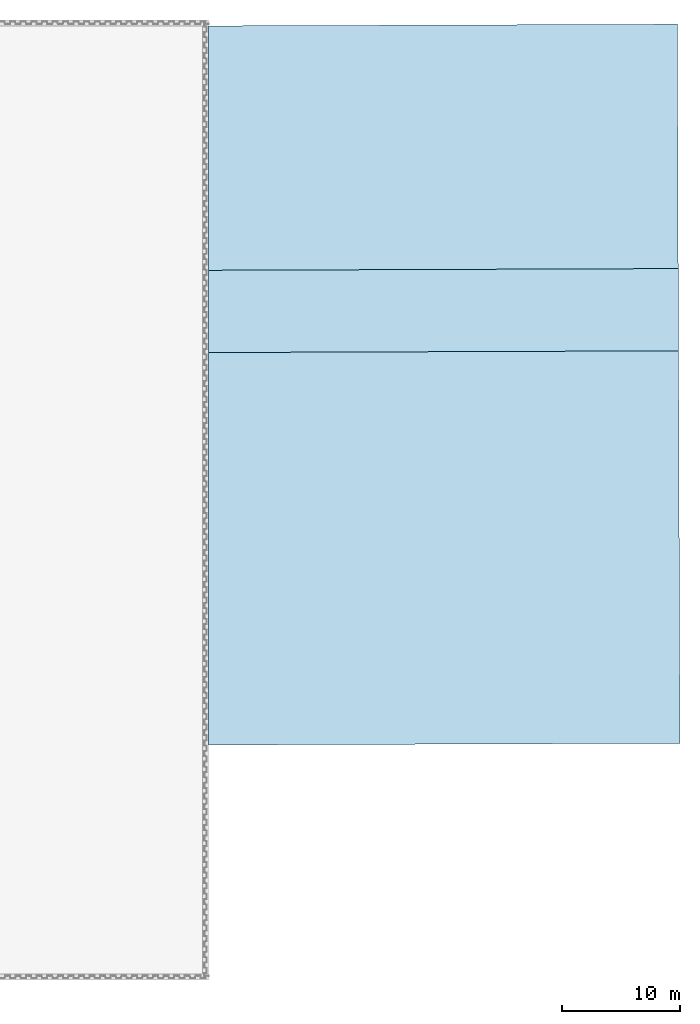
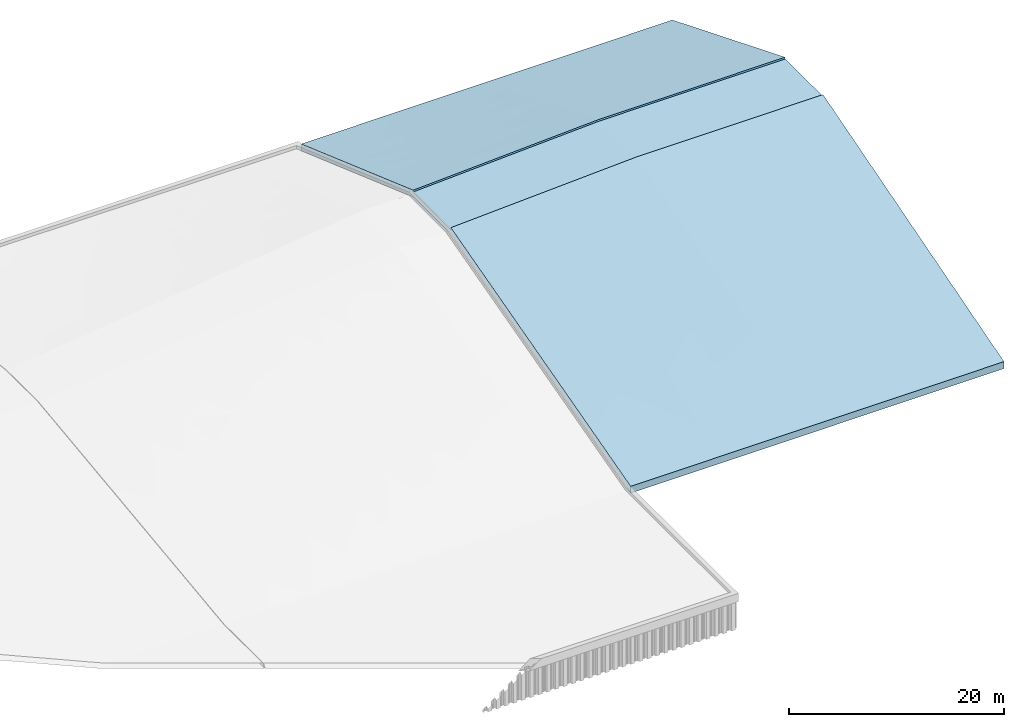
# One storey, part 3 of 32: 1 slab.
"""IFC2X3 building model written with IfcOpenShell, lengths in millimetres."""

from ifc_helpers import new_model, entity, si_unit, converted_unit, derived_unit, direction, frame, origin, place, context, subcontext, project, spatial, faceted_brep, type_object, element, save


model = new_model("IFC2X3")

# Units and contexts
model_context = context("Model", 3, precision=0.01, world=origin(), true_north=direction((6.12303176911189e-17, 1.0)))
body_context = subcontext(model_context, "Body", "Model", "MODEL_VIEW")
ifc_project = project(units=[si_unit("LENGTHUNIT", "METRE", prefix="MILLI"), si_unit("AREAUNIT", "SQUARE_METRE"), si_unit("VOLUMEUNIT", "CUBIC_METRE"), converted_unit("PLANEANGLEUNIT", "DEGREE", entity("IfcRatioMeasure", 0.0174532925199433), si_unit("PLANEANGLEUNIT", "RADIAN"), dimensions=[0, 0, 0, 0, 0, 0, 0]), si_unit("MASSUNIT", "GRAM", prefix="KILO"), derived_unit("MASSDENSITYUNIT", [(si_unit("MASSUNIT", "GRAM", prefix="KILO"), 1), (si_unit("LENGTHUNIT", "METRE"), -3)]), si_unit("TIMEUNIT", "SECOND"), si_unit("FREQUENCYUNIT", "HERTZ"), si_unit("THERMODYNAMICTEMPERATUREUNIT", "DEGREE_CELSIUS"), derived_unit("THERMALTRANSMITTANCEUNIT", [(si_unit("MASSUNIT", "GRAM", prefix="KILO"), 1), (si_unit("THERMODYNAMICTEMPERATUREUNIT", "KELVIN"), -1), (si_unit("TIMEUNIT", "SECOND"), -3)]), derived_unit("VOLUMETRICFLOWRATEUNIT", [(si_unit("LENGTHUNIT", "METRE"), 3), (si_unit("TIMEUNIT", "SECOND"), -1)]), si_unit("ELECTRICCURRENTUNIT", "AMPERE"), si_unit("ELECTRICVOLTAGEUNIT", "VOLT"), si_unit("POWERUNIT", "WATT"), si_unit("FORCEUNIT", "NEWTON", prefix="KILO"), si_unit("ILLUMINANCEUNIT", "LUX"), si_unit("LUMINOUSFLUXUNIT", "LUMEN"), si_unit("LUMINOUSINTENSITYUNIT", "CANDELA"), derived_unit("USERDEFINED", [(si_unit("MASSUNIT", "GRAM", prefix="KILO"), -1), (si_unit("LENGTHUNIT", "METRE"), -2), (si_unit("TIMEUNIT", "SECOND"), 3), (si_unit("LUMINOUSFLUXUNIT", "LUMEN"), 1)]), derived_unit("LINEARVELOCITYUNIT", [(si_unit("LENGTHUNIT", "METRE"), 1), (si_unit("TIMEUNIT", "SECOND"), -1)]), si_unit("PRESSUREUNIT", "PASCAL"), derived_unit("USERDEFINED", [(si_unit("LENGTHUNIT", "METRE"), -2), (si_unit("MASSUNIT", "GRAM", prefix="KILO"), 1), (si_unit("TIMEUNIT", "SECOND"), -2)])], contexts=[model_context])

# Site, building, storey
site_placement = place(None, origin())
site = spatial("IfcSite", under=ifc_project, at=site_placement, Name="Default", CompositionType="ELEMENT")
building_placement = place(site_placement, origin())
building = spatial("IfcBuilding", under=site, at=building_placement, CompositionType="ELEMENT")
storey_placement = place(building_placement, origin())
storey = spatial("IfcBuildingStorey", under=building, at=storey_placement, Name="矢板", CompositionType="ELEMENT", Elevation=0.0)

# Slab
slab_type = type_object("IfcSlabType", Name="大型連節ブロック", PredefinedType="FLOOR")
slab_placement = place(storey_placement, frame((148750.0, -32751.8168152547, 5716.69901167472)))
element("IfcSlab", 1, at=slab_placement, inside=storey, type_object=slab_type, Name="大型連節ブロック1:大型連節ブロック", ObjectType="大型連節ブロック1:大型連節ブロック", PredefinedType="FLOOR", context=body_context, shape_type="Brep", body=[
    faceted_brep([(19999.8673403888, 33474.6616285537, 10646.3009883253), (19999.8673403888, 33474.6616285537, 10846.3009883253), (20015.0736951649, 29299.6893212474, 9588.42598832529), (20030.280049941, 25124.7170139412, 8330.5509883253), (20045.4864047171, 20949.7447066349, 7072.67598832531), (20060.6927594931, 16774.7723993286, 5814.80098832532), (20079.5087209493, 11608.7665306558, 4258.33805785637), (20098.3246824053, 6442.76066198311, 2701.87512738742), (20121.5181785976, 74.8831701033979, 783.300988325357), (20121.5181785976, 74.8831701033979, 0.0), (20106.2615021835, 4263.67150683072, 1262.03762354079), (20091.0048257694, 8452.45984355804, 2524.07524708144), (20075.7481493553, 12641.2481802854, 3786.11287062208), (20060.4914729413, 16830.0365170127, 5048.15049416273), (20041.5949287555, 22018.1667323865, 6611.27925629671), (20022.6983845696, 27206.2969477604, 8174.40801843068), (19999.464767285, 33585.189863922, 10096.3009883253), (19974.9002052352, 40329.4995823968, 10096.3009883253), (19962.8542248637, 43636.7770467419, 8766.67187114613), (19950.808244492, 46944.054511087, 7437.04275396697), (19936.7529853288, 50802.9884004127, 5885.63047730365), (19922.6977261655, 54661.9222897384, 4334.21820064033), (19910.6517457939, 57969.1997540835, 3004.58908346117), (19898.6057654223, 61276.4772184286, 1674.95996628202), (19898.6057654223, 61276.4772184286, 2483.30098832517), (19910.5290159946, 58002.8957660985, 3799.38325339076), (19922.452266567, 54729.3143137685, 5115.46551845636), (19936.4887105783, 50875.5462080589, 6664.80098832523), (19950.5251545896, 47021.7781023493, 8214.13645819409), (19962.4484051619, 43748.1966500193, 9530.21872325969), (19974.3716557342, 40474.6151976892, 10846.3009883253), (19974.3716557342, 40474.6151976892, 10646.3009883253), (15285.2624229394, 40457.5362200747, 10614.1653281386), (10596.1531901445, 40440.4572424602, 10382.0296679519), (7947.11642147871, 40430.8087490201, 10250.8883640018), (5298.07659507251, 40421.160244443, 10119.7469086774), (0.0, 40401.8632464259, 9857.46414940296), (0.0, 40401.8632464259, 9657.46414940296), (15558.6487544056, 48932.6904622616, 7310.82464454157), (12874.7207410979, 47155.6467734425, 7912.62473563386), (16349.7733701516, 45955.1844977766, 8506.3431049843), (9818.78519796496, 52997.1155030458, 5598.74520436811), (13552.8720295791, 52779.2039174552, 5761.53714646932), (11320.3226242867, 55125.0700741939, 4818.4992346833), (8817.79195882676, 46446.95206618, 8037.03929390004), (12883.557602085, 44729.4400462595, 8847.18345444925), (10177.9192097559, 48913.0922010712, 7152.96308956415), (13864.0724691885, 57357.7271006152, 3993.81061332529), (9949.30288271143, 61240.2392225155, 2483.30098832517), (10244.0201730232, 57260.1488118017, 3992.22312168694), (6362.15453305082, 43669.1266947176, 8973.80027664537), (12936.572807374, 42344.8408035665, 9767.77196880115), (16197.7853527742, 43627.9178971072, 9415.0487171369), (15727.815317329, 55020.6032364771, 4929.93682580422), (6621.08488645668, 57256.9706852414, 3954.18774093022), (0.0, 58314.888308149, 3507.69600262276), (4201.3867963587, 55103.5426951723, 4713.208196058), (0.0, 49647.5495527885, 6580.88104551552), (4813.55765381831, 47245.1266039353, 7598.73840936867), (5972.63893096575, 49959.4701456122, 6638.16133718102), (0.0, 52536.662471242, 5556.48603121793), (6084.50974362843, 52763.5832009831, 5606.6496068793), (4974.65144135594, 61222.120224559, 2483.30098832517), (0.0, 45024.7063996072, 8219.17259745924), (0.0, 42713.2848230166, 9038.3183734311), (0.0, 47336.1279761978, 7400.02682148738), (7761.46329290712, 54812.4608154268, 4878.443158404), (14923.9543240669, 61258.3582204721, 2483.30098832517), (0.0, 55425.7753896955, 4532.09101692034), (0.0, 61204.0012266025, 2483.30098832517), (15264.8317174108, 61259.5997862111, 1677.88364527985), (10631.0576693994, 61242.7223539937, 1680.80732427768), (5315.53036598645, 61223.3617958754, 1684.16115538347), (1.05687831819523e-09, 61204.0012266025, 1687.51498842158), (14981.1751539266, 40315.3404138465, 9849.08596361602), (13914.7616340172, 44233.7132658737, 8276.88254343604), (6480.01861868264, 51095.6361501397, 5432.40623610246), (0.0, 48994.3921718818, 6016.4302968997), (0.0, 51901.5685931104, 4986.09343270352), (4191.48082771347, 58897.4984433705, 2531.46764522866), (16085.5059115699, 55437.9076022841, 3965.93594693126), (15540.7416743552, 52717.914871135, 5022.93874509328), (12257.8012267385, 54629.0065273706, 4220.37260854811), (9821.27355857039, 50068.0593321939, 5903.76345368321), (10166.7377670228, 52700.1102074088, 4916.43131660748), (7983.84890980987, 58334.9832272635, 2765.37271028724), (13440.0990553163, 59223.5624298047, 2463.69657295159), (16275.3175102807, 57710.6682550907, 3074.77346627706), (13584.7555054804, 48853.3993812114, 6476.5730664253), (13407.1502159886, 46533.5303775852, 7367.48382711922), (10243.5186578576, 42925.4444868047, 8620.96155731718), (10662.5442923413, 45121.9535082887, 7805.39660810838), (4993.72505130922, 40287.022076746, 9354.65591419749), (0.0, 43180.0393294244, 8077.10402529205), (6639.50065855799, 44292.9338849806, 7955.05273030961), (4905.69416897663, 53196.70477073, 4623.92083395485), (6443.9973875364, 46542.9385801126, 7115.10806837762), (0.0, 46087.2157506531, 7046.76716109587), (6104.59373249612, 48786.0346993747, 6275.3577373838), (9873.59654136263, 47276.7680342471, 6960.1958447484), (9987.45010261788, 40301.1812452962, 9601.87093890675), (8782.66239923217, 55473.2610084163, 3846.07239258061), (0.0, 54227.1767514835, 4161.44882163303), (4542.7017936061, 56481.8579597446, 3416.40159741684), (12838.383508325, 56925.1179555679, 3345.64088689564), (0.0, 56552.7849098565, 3336.80421056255), (0.0, 58878.3930682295, 2512.15959949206), (0.0, 40272.8629081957, 9107.44088948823), (16795.1637443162, 33571.8405007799, 9937.67086998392), (12817.2040918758, 33555.2680166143, 9740.74049237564), (6408.60204593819, 33528.5692903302, 9423.48025569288), (0.0, 33501.8705640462, 9106.22001901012), (15091.1386339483, 56.5611956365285, 1.53909009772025), (10060.759089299, 38.2392211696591, 3.07818019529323), (12563.3197097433, 3514.72252216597, 1008.20506597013), (9933.18570374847, 23089.6290681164, 6603.09679072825), (14648.9915792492, 19402.7941108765, 5675.99671365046), (9011.51636557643, 17092.167714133, 4863.35130897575), (9628.01913762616, 29391.6860142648, 8395.57232342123), (14464.9388176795, 24000.0520642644, 7018.59314116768), (9428.43592489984, 11039.6244882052, 3144.79116132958), (8214.94445752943, 5451.69696843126, 1541.17543359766), (3918.70871665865, 6981.52356391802, 1936.58848153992), (14824.3088845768, 28587.2714404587, 8378.20032773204), (15065.9154025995, 13349.7319141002, 3907.96481754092), (4443.36857157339, 11634.8336691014, 3235.62489647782), (4619.68523639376, 23425.4136910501, 6522.08781842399), (0.0, 26057.5542207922, 7083.2868753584), (4465.77362109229, 28721.5087232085, 7991.18526188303), (14201.4244988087, 7468.55148056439, 2171.14916247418), (0.0, 1.5952722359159, 6.15636039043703), (0.0, 4654.50592356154, 1269.7057032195), (3204.30729411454, 13.2662079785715, 5.17597360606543), (4067.02789769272, 16287.9614638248, 4521.53716860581), (6041.36994804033, 19727.0535976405, 5531.58624796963), (0.0, 9307.41657488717, 2533.25504604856), (0.0, 13960.3272262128, 3796.80438887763), (0.0, 29779.7123924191, 8094.75344718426), (0.0, 22335.3960491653, 6071.82030353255), (16293.9564634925, 4296.96486047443, 1253.48966128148), (0.0, 18613.2378775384, 5060.35373170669), (6408.61458822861, 24.937143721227, 4.19558682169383), (4794.24693692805, 3372.33263402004, 938.866149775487), (16912.1593058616, 63.1938351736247, 783.300988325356), (12837.4374408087, 48.3526190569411, 783.300988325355), (6418.71872040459, 24.9739456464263, 783.300988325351), (0.0, 1.59527223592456, 783.300988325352), (14681.0697954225, 14172.1391272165, 4923.80828212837), (9984.20168197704, 10491.7456837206, 3776.39211451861), (9022.92096466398, 16489.2221571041, 5471.65939768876), (14504.2605274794, 9604.19859772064, 3581.49172789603), (9612.80167608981, 4230.77053570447, 1981.70844477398), (12512.466419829, 30001.804341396, 9475.21113856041), (14999.9005052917, 33456.4504252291, 10598.77623585), (9999.93367019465, 33438.2392219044, 10351.2514833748), (9372.33790020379, 22552.2225885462, 7211.1897976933), (8228.82565447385, 28077.8382753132, 8743.1040976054), (4003.63327957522, 26327.9507751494, 8085.81252487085), (14856.6212199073, 5046.30744836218, 2248.0862375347), (15030.4890774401, 20235.1383273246, 6712.81088614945), (4424.81067496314, 21805.0075163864, 6843.16790303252), (4632.96950774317, 10108.4909048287, 3592.19149969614), (0.0, 7424.05480991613, 2798.808794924), (4455.7794436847, 4788.74383838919, 2110.05395461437), (14151.6461441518, 26080.3195079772, 8398.26786092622), (0.0, 24124.1655814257, 7335.2592899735), (4065.33800562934, 17166.1606443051, 5543.72735465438), (6120.81036635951, 13777.6682300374, 4642.72216924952), (0.0, 19485.339964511, 6074.78794574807), (0.0, 3712.82504107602, 1791.05489162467), (0.0, 11135.2845787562, 3806.56269822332), (16223.8243907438, 29230.8846884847, 9407.93090788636), (0.0, 14846.5143475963, 4814.31660152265), (6418.71892913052, 33425.1954894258, 10173.9624489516), (4826.47306722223, 30005.3968361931, 9142.77703173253), (0.0, 28762.9911983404, 8595.73063419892), (3209.35946456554, 33413.5061523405, 10015.082213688), (0.0, 33401.8168152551, 9856.20197842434), (0.0, 33401.8168152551, 9656.20197842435)], [[[0, 1, 2, 3, 4, 5, 6, 7, 8, 9, 10, 11, 12, 13, 14, 15, 16, 17, 18, 19, 20, 21, 22, 23, 24, 25, 26, 27, 28, 29, 30, 31]], [[31, 30, 32, 33, 34, 35, 36, 37]], [[38, 39, 40]], [[41, 42, 43]], [[38, 28, 27]], [[39, 44, 45]], [[42, 41, 46]], [[47, 48, 49]], [[45, 50, 51]], [[45, 52, 40]], [[42, 27, 26]], [[42, 46, 38]], [[26, 53, 42]], [[26, 25, 53]], [[54, 55, 56]], [[57, 58, 59]], [[49, 48, 54]], [[42, 53, 43]], [[56, 60, 61]], [[62, 55, 54]], [[42, 38, 27]], [[39, 38, 46]], [[58, 63, 50]], [[40, 52, 29]], [[46, 44, 39]], [[50, 35, 34, 33]], [[64, 36, 35]], [[59, 58, 46]], [[58, 57, 65, 63]], [[53, 25, 47]], [[43, 53, 47]], [[47, 49, 43]], [[54, 56, 66]], [[66, 41, 43]], [[41, 61, 59]], [[25, 67, 47]], [[66, 49, 54]], [[67, 25, 24]], [[54, 48, 62]], [[67, 48, 47]], [[59, 60, 57]], [[60, 56, 55, 68]], [[61, 41, 66]], [[66, 43, 49]], [[61, 66, 56]], [[44, 46, 58]], [[39, 45, 40]], [[58, 50, 44]], [[45, 44, 50]], [[40, 29, 28]], [[51, 32, 52]], [[38, 40, 28]], [[51, 52, 45]], [[29, 52, 30]], [[30, 52, 32]], [[41, 59, 46]], [[33, 32, 51]], [[64, 35, 50]], [[50, 63, 64]], [[50, 33, 51]], [[59, 61, 60]], [[55, 62, 69]], [[24, 23, 70, 71, 72, 73, 69, 62, 48, 67]], [[18, 74, 75]], [[76, 77, 78]], [[73, 72, 79]], [[80, 81, 82]], [[81, 83, 84]], [[21, 20, 81]], [[71, 85, 72]], [[86, 70, 87]], [[88, 20, 19]], [[83, 81, 88]], [[75, 89, 19]], [[90, 91, 75]], [[92, 93, 94]], [[78, 95, 76]], [[96, 97, 98]], [[75, 19, 18]], [[98, 83, 99]], [[100, 92, 90, 74]], [[88, 81, 20]], [[82, 84, 101]], [[102, 103, 95]], [[86, 87, 104]], [[104, 101, 85]], [[86, 85, 71]], [[104, 82, 101]], [[103, 79, 85]], [[95, 101, 84]], [[103, 85, 101]], [[84, 83, 76]], [[102, 105, 103]], [[95, 103, 101]], [[79, 72, 85]], [[105, 106, 73, 79]], [[105, 79, 103]], [[80, 82, 104]], [[81, 84, 82]], [[87, 22, 80]], [[81, 80, 21]], [[80, 104, 87]], [[22, 21, 80]], [[22, 87, 23]], [[23, 87, 70]], [[85, 86, 104]], [[71, 70, 86]], [[99, 83, 88]], [[76, 83, 98]], [[89, 99, 88]], [[96, 98, 99]], [[98, 77, 76]], [[84, 76, 95]], [[19, 89, 88]], [[91, 89, 75]], [[91, 96, 99]], [[97, 96, 94]], [[98, 97, 77]], [[74, 18, 17]], [[94, 96, 91]], [[74, 90, 75]], [[94, 91, 90]], [[89, 91, 99]], [[90, 92, 94]], [[95, 78, 102]], [[93, 92, 107]], [[93, 97, 94]], [[107, 92, 100, 74, 17, 16, 108, 109, 110, 111]], [[112, 113, 114]], [[115, 116, 117]], [[110, 109, 118]], [[13, 116, 14]], [[14, 119, 15]], [[116, 115, 119]], [[120, 121, 122]], [[123, 108, 15]], [[13, 124, 116]], [[125, 117, 120]], [[108, 123, 109]], [[108, 16, 15]], [[126, 127, 128]], [[116, 119, 14]], [[124, 120, 117]], [[116, 124, 117]], [[110, 118, 128]], [[123, 118, 109]], [[128, 111, 110]], [[129, 120, 124]], [[130, 131, 132]], [[117, 133, 134]], [[11, 124, 13, 12]], [[124, 11, 129]], [[119, 118, 123]], [[135, 136, 125]], [[126, 128, 118]], [[126, 118, 115]], [[128, 127, 137, 111]], [[134, 115, 117]], [[134, 138, 126]], [[9, 112, 139]], [[120, 122, 125]], [[136, 140, 133]], [[125, 136, 133]], [[121, 129, 114]], [[141, 121, 113]], [[122, 131, 135]], [[129, 121, 120]], [[140, 134, 133]], [[117, 125, 133]], [[141, 132, 142]], [[125, 122, 135]], [[142, 131, 122]], [[142, 121, 141]], [[131, 142, 132]], [[121, 142, 122]], [[114, 139, 112]], [[11, 10, 9, 139]], [[121, 114, 113]], [[139, 114, 129]], [[11, 139, 129]], [[118, 119, 115]], [[119, 123, 15]], [[134, 140, 138]], [[138, 127, 126]], [[115, 134, 126]], [[130, 132, 141, 113, 112, 9, 8, 143, 144, 145, 146]], [[5, 147, 6]], [[148, 147, 149]], [[150, 147, 148]], [[145, 144, 151]], [[6, 150, 7]], [[152, 153, 154]], [[155, 156, 157]], [[158, 143, 7]], [[5, 159, 147]], [[160, 149, 155]], [[143, 158, 144]], [[143, 8, 7]], [[161, 162, 163]], [[147, 150, 6]], [[159, 155, 149]], [[147, 159, 149]], [[145, 151, 163]], [[158, 151, 144]], [[163, 146, 145]], [[164, 155, 159]], [[165, 160, 157]], [[149, 166, 167]], [[3, 159, 5, 4]], [[159, 3, 164]], [[150, 151, 158]], [[165, 168, 160]], [[161, 163, 151]], [[161, 151, 148]], [[163, 162, 169, 146]], [[167, 148, 149]], [[167, 170, 161]], [[1, 153, 171]], [[160, 155, 157]], [[168, 172, 166]], [[160, 168, 166]], [[156, 164, 152]], [[173, 156, 154]], [[174, 156, 173]], [[164, 156, 155]], [[172, 167, 166]], [[149, 160, 166]], [[174, 175, 157]], [[174, 173, 176]], [[176, 177, 175]], [[175, 165, 157]], [[175, 174, 176]], [[156, 174, 157]], [[152, 171, 153]], [[3, 2, 1, 171]], [[156, 152, 154]], [[171, 152, 164]], [[3, 171, 164]], [[151, 150, 148]], [[150, 158, 7]], [[167, 172, 170]], [[170, 162, 161]], [[148, 167, 161]], [[178, 177, 176, 173, 154, 153, 1, 0]], [[31, 37, 178, 0]], [[107, 111, 137, 127, 138, 140, 136, 135, 131, 130, 146, 169, 162, 170, 172, 168, 165, 175, 177, 178, 37, 36, 64, 63, 65, 57, 60, 68, 55, 69, 73, 106, 105, 102, 78, 77, 97, 93]]]),
    faceted_brep([(39999.7346807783, 33547.5064418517, 10646.3009883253), (39999.7346807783, 33547.5064418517, 10846.3009883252), (40121.3855189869, 147.727983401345, 783.300988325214), (40121.3855189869, 147.727983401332, 0.0), (39999.3321076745, 33658.0346772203, 10096.3009883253), (39974.7675456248, 40402.3443956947, 10096.3009883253), (39898.4731058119, 61349.3220317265, 1674.95996628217), (39898.4731058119, 61349.3220317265, 2483.30098832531), (39974.2389961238, 40547.4600109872, 10846.3009883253), (39974.2389961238, 40547.4600109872, 10646.3009883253), (19999.8673403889, 33474.6616285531, 10646.3009883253), (19974.3716557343, 40474.6151976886, 10646.3009883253), (19974.3716557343, 40474.6151976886, 10846.3009883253), (19898.6057654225, 61276.4772184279, 2483.30098832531), (19898.6057654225, 61276.477218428, 1674.95996628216), (19974.9002052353, 40329.4995823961, 10096.3009883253), (19999.4647672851, 33585.1898639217, 10096.3009883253), (20121.5181785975, 74.8831701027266, 0.0), (20121.5181785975, 74.8831701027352, 783.300988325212), (19999.8673403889, 33474.6616285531, 10846.3009883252)], [[[0, 1, 2, 3, 4, 5, 6, 7, 8, 9]], [[10, 11, 12, 13, 14, 15, 16, 17, 18, 19]], [[3, 2, 18, 17]], [[5, 4, 16, 15]], [[7, 6, 14, 13]], [[9, 8, 12, 11]], [[0, 9, 11, 10]], [[1, 0, 10, 19]], [[2, 1, 19, 18]], [[4, 3, 17, 16]], [[6, 5, 15, 14]], [[8, 7, 13, 12]]]),
])

save(model, "model.ifc")
